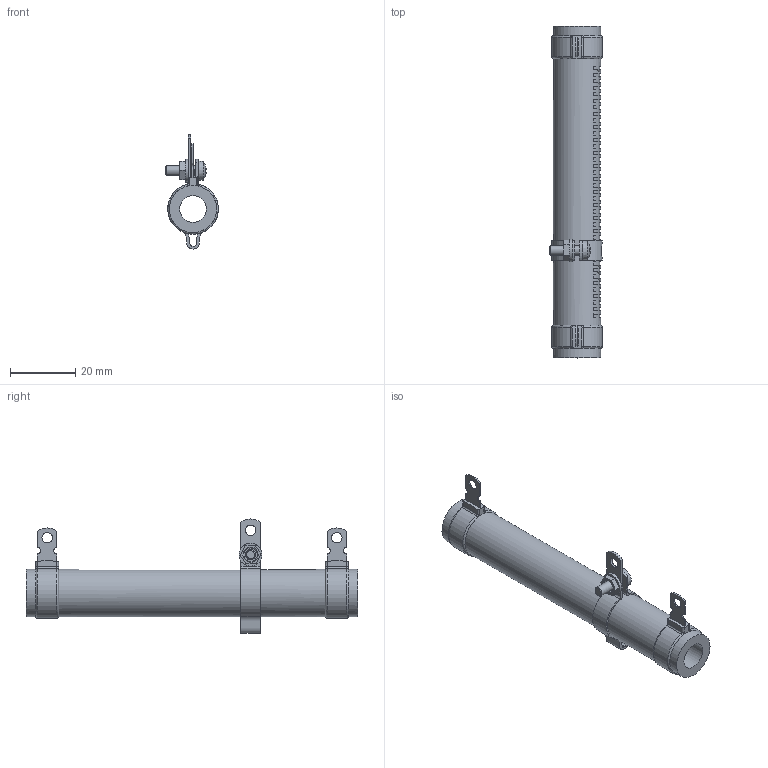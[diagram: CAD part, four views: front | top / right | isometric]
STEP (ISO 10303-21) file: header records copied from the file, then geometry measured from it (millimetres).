
FILE_DESCRIPTION(/* description */ (''),/* implementation_level */ '2;1');
FILE_NAME(/* name */ 'C:\_Vault\Dati\CATALOGO\RCA-RSA\R 25-1000\3D\RCAR 50.stp',/* time_stamp */ '2014-03-18T17:55:28+01:00',/* author */ ('stefano'),/* organization */ (''),/* preprocessor_version */ 'ST-DEVELOPER v15.2',/* originating_system */ 'Autodesk Inventor 2014',/* authorisation */ '');
FILE_SCHEMA (('AUTOMOTIVE_DESIGN { 1 0 10303 214 3 1 1 }'));
Length unit declared in the file: millimetre
Products named in the file (1): RCAR 50
Bounding box: 16.25 x 102 x 35.09 mm (x, y, z)
Volume: 12265.6 mm3; surface area: 8876.4 mm2
Topology: 1 solids, 1 shells, 338 faces, 834 edges, 543 vertices
Faces by surface type: plane 219, cylinder 83, cone 18, torus 13, bspline 4, sphere 1
Full cylindrical faces by diameter (mm): 2.75 x1, 3 x1, 3.2 x5, 4.134 x1, 7 x1, 8.2 x1, 14.5 x3
Entity records: 10508 total; most frequent: CARTESIAN_POINT 2031, DIRECTION 1737, ORIENTED_EDGE 1604, EDGE_CURVE 802, AXIS2_PLACEMENT_3D 641, VERTEX_POINT 533, LINE 455, VECTOR 455
